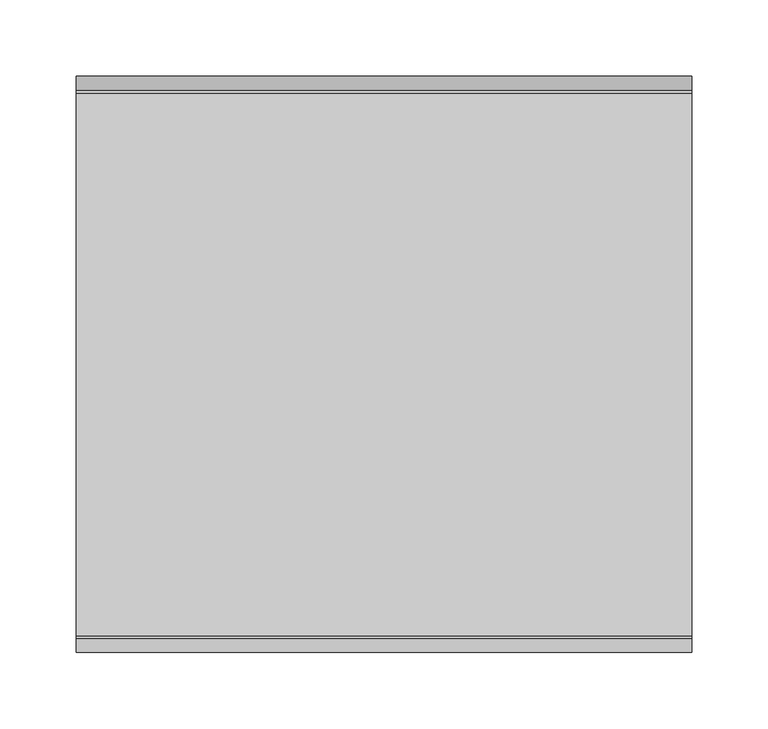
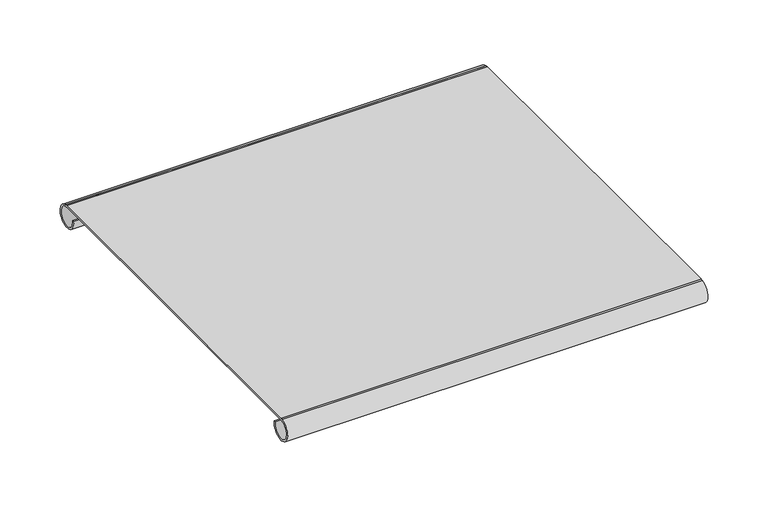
"""IFC4 building model written with IfcOpenShell, lengths in millimetres: furniture geometry, OFS VIDE LEATHER SLING SHELVES : Leather Sling Shelf 16."""

from ifc_helpers import new_model, si_unit, point, frame, frame_2d, origin, place, context, project, spatial, polyline, circle_curve, trimmed, segment, composite_curve, outline, extrude, source, transform, mapped, element, save


def furniture_fcc896ba(model_context):
    return source(origin(), model_context, "Body", "SweptSolid", [
        extrude(outline(composite_curve([segment(trimmed(circle_curve(frame_2d((177.8, 82.55)), 9.525), [point((168.4229668, 84.2223854))], [point((179.4723854, 91.9270332))], True, "CARTESIAN"), True, "CONTINUOUS"), segment(trimmed(circle_curve(frame_2d((178.3574618, 85.6756777)), 6.35), [point((179.4723854, 91.9270332))], [point((177.9721778, 92.0139785))], True, "CARTESIAN"), True, "CONTINUOUS"), segment(trimmed(circle_curve(frame_2d((0.0, 3019.8312683)), 2933.2214678), [point((177.9721778, 92.0139785))], [point((-177.9721778, 92.0139785))], False, "CARTESIAN"), True, "CONTINUOUS"), segment(trimmed(circle_curve(frame_2d((-178.3574618, 85.6756777)), 6.35), [point((-177.9721778, 92.0139785))], [point((-179.4723854, 91.9270332))], True, "CARTESIAN"), True, "CONTINUOUS"), segment(trimmed(circle_curve(frame_2d((-177.8, 82.55)), 9.525), [point((-179.4723854, 91.9270332))], [point((-168.4229668, 84.2223854))], True, "CARTESIAN"), True, "CONTINUOUS"), segment(polyline([(-168.4229668, 84.2223854), (-166.8601279, 84.5011163)]), True, "CONTINUOUS"), segment(trimmed(circle_curve(frame_2d((-177.8, 82.55)), 11.1125), [point((-166.8601279, 84.5011163))], [point((-179.7511163, 93.4898721))], False, "CARTESIAN"), True, "CONTINUOUS"), segment(trimmed(circle_curve(frame_2d((-178.3574618, 85.6756777)), 7.9375), [point((-179.7511163, 93.4898721))], [point((-177.8758568, 93.5985537))], False, "CARTESIAN"), True, "CONTINUOUS"), segment(trimmed(circle_curve(frame_2d((0.0, 3019.8312683)), 2931.6339678), [point((-177.8758568, 93.5985537))], [point((177.8758568, 93.5985537))], True, "CARTESIAN"), True, "CONTINUOUS"), segment(trimmed(circle_curve(frame_2d((178.3574618, 85.6756777)), 7.9375), [point((177.8758568, 93.5985537))], [point((179.7511163, 93.4898721))], False, "CARTESIAN"), True, "CONTINUOUS"), segment(trimmed(circle_curve(frame_2d((177.8, 82.55)), 11.1125), [point((179.7511163, 93.4898721))], [point((166.8601279, 84.5011163))], False, "CARTESIAN"), True, "CONTINUOUS"), segment(polyline([(166.8601279, 84.5011163), (168.4229668, 84.2223854)]), True, "CONTINUOUS")], self_intersect=False)), frame((-201.6125, 0.0, 0.0), z_axis=(1.0, 0.0, 0.0), x_axis=(0.0, 1.0, 0.0)), (0.0, 0.0, 1.0), 403.225),
    ])


if __name__ == "__main__":
    model = new_model("IFC4")
    model_context = context("Model", 3, world=origin())
    ifc_project = project(units=[si_unit("LENGTHUNIT", "METRE", prefix="MILLI")], contexts=[model_context])
    site = spatial("IfcSite", under=ifc_project)
    building = spatial("IfcBuilding", under=site)
    placement = place(None, origin())
    furniture_shape = furniture_fcc896ba(model_context)
    element("IfcFurniture", 1, ObjectType="OFS VIDE LEATHER SLING SHELVES : Leather Sling Shelf 16", at=placement, inside=building, context=model_context, shape_type="MappedRepresentation", body=[
        mapped(furniture_shape, transform((0.0, 0.0, 0.0), x_axis=(1.0, 0.0, 0.0), y_axis=(0.0, 1.0, 0.0), z_axis=(0.0, 0.0, 1.0))),
    ])
    save(model, "model.ifc")
